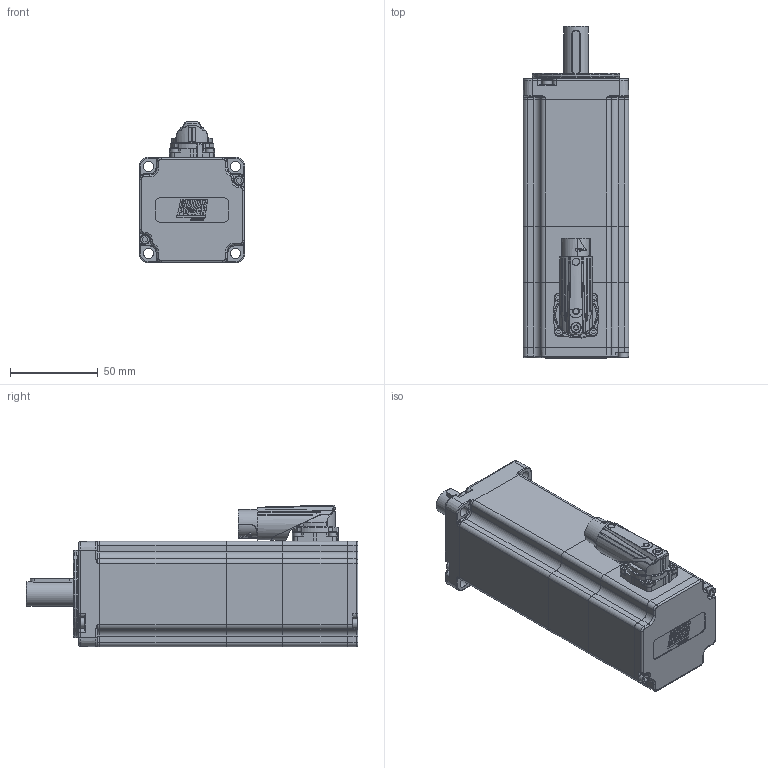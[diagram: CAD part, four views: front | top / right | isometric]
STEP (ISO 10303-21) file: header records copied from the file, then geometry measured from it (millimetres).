
FILE_DESCRIPTION(/* description */ ('Unknown'),/* implementation_level */ '2;1');
FILE_NAME(/* name */ 'TC4-60.2B.XX.X.3.XX.1.1.G11.39.71 Q0C136',/* time_stamp */ '2026-03-03T16:47:31+01:00',/* author */ ('Unknown'),/* organization */ ('Unknown'),/* preprocessor_version */ 'ST-DEVELOPER v19.4',/* originating_system */ 'Solid Edge',/* authorisation */ 'Unknown');
FILE_SCHEMA (('AUTOMOTIVE_DESIGN {1 0 10303 214 3 1 1}'));
Products named in the file (15): Q0C136 60 2B FRENO VUOTO; 005911000171; 005119001310; 005911000491; 003103040224; 003155002197; 005113000400; 007117002067; 003107003285; 005911000495; 003251040722; 003151003164; 003003200344; 005911000273; 005911000492
Assembly tree (24 placements, depth 2):
  Q0C136 60 2B FRENO VUOTO
    005911000171  x4
    005119001310
    005911000491  x2
    003103040224
    003155002197
    005113000400
    007117002067
    003107003285
    005911000495  x4
    003251040722
    003151003164
    003003200344
    005911000273  x4
    005911000492
Bounding box: 60 x 189 x 80.49 mm (x, y, z)
Volume: 207415.6 mm3; surface area: 121946.5 mm2
Topology: 26 solids, 26 shells, 1859 faces, 4650 edges, 2982 vertices
Faces by surface type: plane 860, cylinder 498, bspline 220, cone 140, torus 124, sphere 17
Full cylindrical faces by diameter (mm): 1 x9, 1.8 x5, 2 x1, 2.013 x12, 2.05 x1, 2.459 x23, 2.5 x9, 2.6 x3, 2.7 x8, 3 x8, 3.06 x1, 3.2 x2, 3.5 x6, 4 x1, 4.134 x1, 4.7 x8, 5 x8, 5.2 x1, 5.5 x8, 5.8 x5, 6 x1, 9.99 x1, 10 x1, 12 x1, 13.8 x2, 14 x2, 14.99 x1, 15 x1, 16.2 x1, 17.025 x1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
Entity records: 63922 total; most frequent: CARTESIAN_POINT 17007, ORIENTED_EDGE 7960, DIRECTION 7425, EDGE_CURVE 3980, AXIS2_PLACEMENT_3D 2735, VERTEX_POINT 2723, FACE_BOUND 2209, EDGE_LOOP 2193
